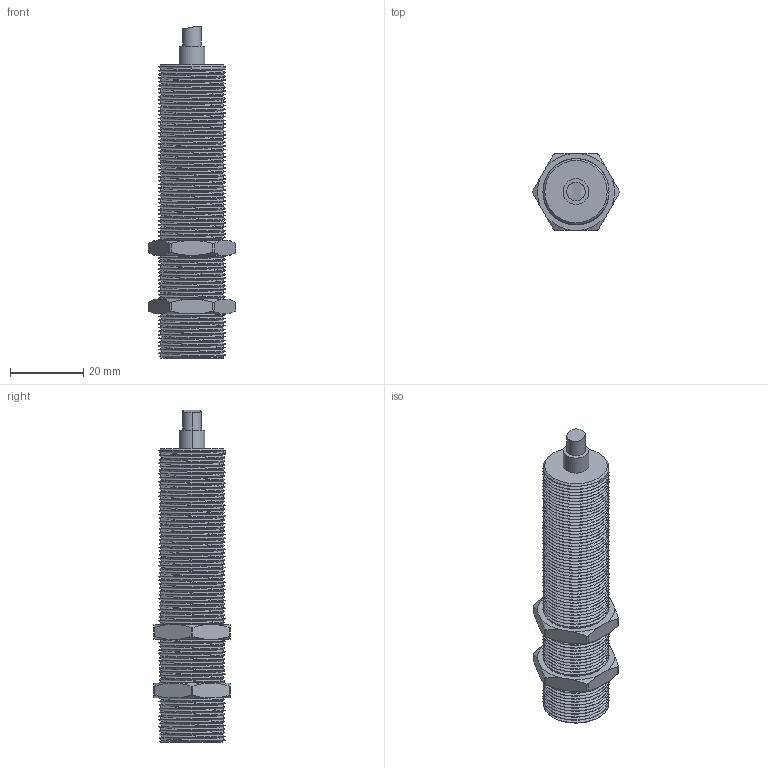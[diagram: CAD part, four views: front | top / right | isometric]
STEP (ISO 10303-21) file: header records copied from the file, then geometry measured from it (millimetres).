
FILE_DESCRIPTION((''),'2;1');
FILE_NAME('M18_MNL_QP_D1880_ASM','2019-07-17T',('Administrator'),(''),'PRO/ENGINEER BY PARAMETRIC TECHNOLOGY CORPORATION, 2012130','PRO/ENGINEER BY PARAMETRIC TECHNOLOGY CORPORATION, 2012130','');
FILE_SCHEMA(('AUTOMOTIVE_DESIGN { 1 0 10303 214 1 1 1 1 }'));
Length unit declared in the file: millimetre
Products named in the file (3): M18_MNL_QP_D1880; M18_LM; M18_MNL_QP_D1880_ASM
Assembly tree (3 placements, depth 2):
  M18_MNL_QP_D1880_ASM
    M18_MNL_QP_D1880
    M18_LM  x2
Bounding box: 23.84 x 20.78 x 90.5 mm (x, y, z)
Volume: 20198.1 mm3; surface area: 10620.7 mm2
Topology: 3 solids, 3 shells, 290 faces, 821 edges, 539 vertices
Faces by surface type: cylinder 190, bspline 50, cone 27, plane 22, extrusion 1
Entity records: 29821 total; most frequent: CARTESIAN_POINT 22287, ORIENTED_EDGE 1422, DIRECTION 717, EDGE_CURVE 711, PRESENTATION_STYLE_ASSIGNMENT 603, STYLED_ITEM 602, CURVE_STYLE 601, VERTEX_POINT 466
